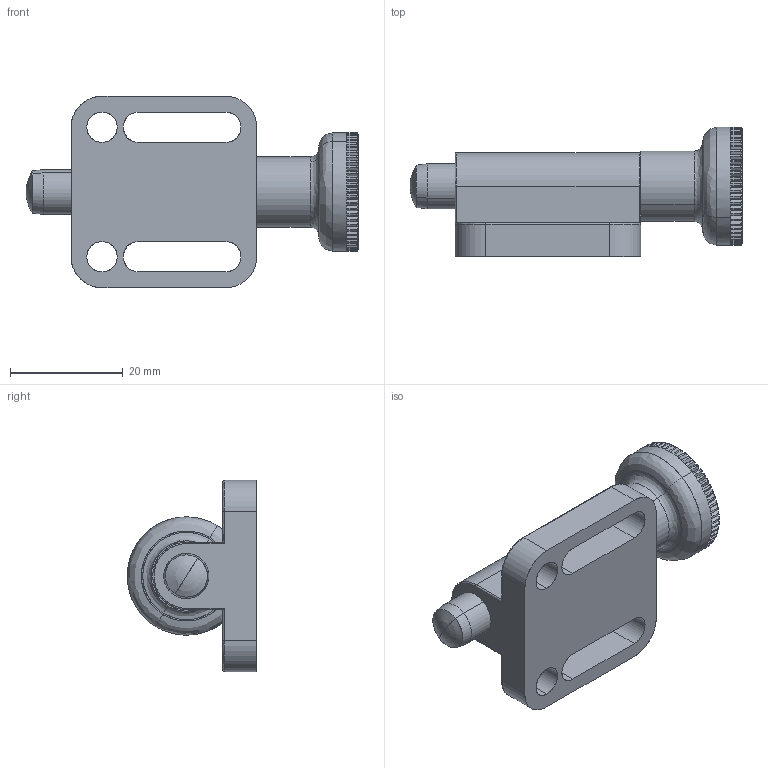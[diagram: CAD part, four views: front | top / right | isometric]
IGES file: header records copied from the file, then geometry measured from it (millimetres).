
Start section: SolidWorks IGES file using analytic representation for surfaces
Global section: file name: C:\HEMSIDA\cad\SLDPRT_2007\gn417\\gn417b_8.igs; native system: SolidWorks 2007; preprocessor: SolidWorks 2007; author: Administrator; date: 070919.153007; units: millimetre
Bounding box: 59 x 23 x 34 mm (x, y, z)
Surface area: 7413.1 mm2 (no closed solid volume)
Topology: 0 solids, 0 shells, 309 faces, 3280 edges, 3277 vertices
Faces by surface type: bspline 270, revolution 39
